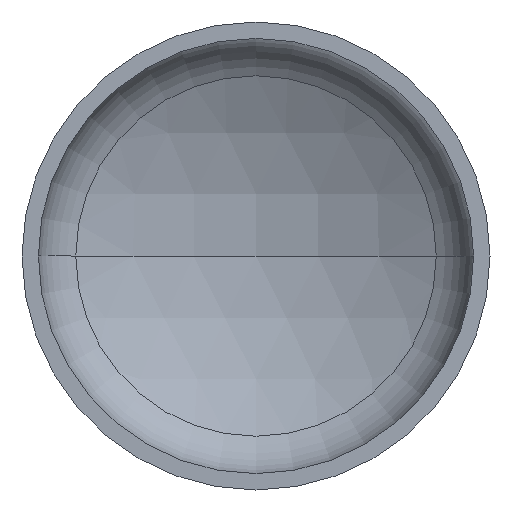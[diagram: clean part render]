
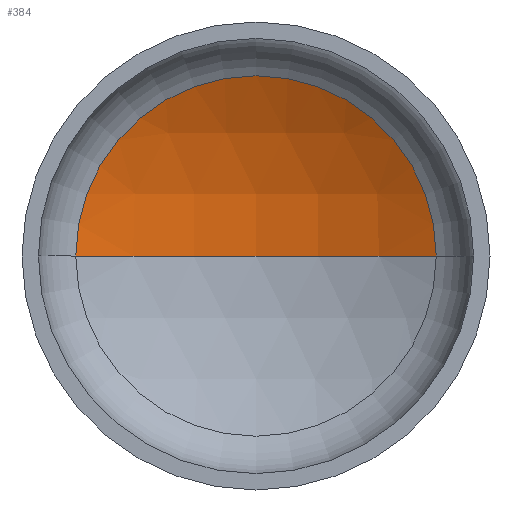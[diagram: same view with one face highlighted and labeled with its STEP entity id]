
A CAD part, front view. The second image highlights one B-rep face of the part: STEP entity #384.
In plain terms, the highlighted spherical face has radius 960 mm.
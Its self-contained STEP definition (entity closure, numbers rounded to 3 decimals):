
#1 = DIRECTION ( 'NONE',  ( 0., -1., 0. ) ) ;
#18 = ORIENTED_EDGE ( 'NONE', *, *, #138, .T. ) ;
#19 = AXIS2_PLACEMENT_3D ( 'NONE', #247, #339, #117 ) ;
#30 = ORIENTED_EDGE ( 'NONE', *, *, #163, .T. ) ;
#43 = AXIS2_PLACEMENT_3D ( 'NONE', #341, #175, #196 ) ;
#48 = AXIS2_PLACEMENT_3D ( 'NONE', #93, #1, #161 ) ;
#66 = CARTESIAN_POINT ( 'NONE',  ( -462.039, 292.164, 0. ) ) ;
#85 = ORIENTED_EDGE ( 'NONE', *, *, #357, .F. ) ;
#93 = CARTESIAN_POINT ( 'NONE',  ( 0., 292.164, 0. ) ) ;
#115 = VERTEX_POINT ( 'NONE', #191 ) ;
#117 = DIRECTION ( 'NONE',  ( 1., 0., 0. ) ) ;
#132 = VERTEX_POINT ( 'NONE', #220 ) ;
#138 = EDGE_CURVE ( 'NONE', #132, #277, #311, .T. ) ;
#139 = FACE_OUTER_BOUND ( 'NONE', #158, .T. ) ;
#150 = CIRCLE ( 'NONE', #19, 960. ) ;
#158 = EDGE_LOOP ( 'NONE', ( #85, #30, #18 ) ) ;
#161 = DIRECTION ( 'NONE',  ( 1., 0., 0. ) ) ;
#163 = EDGE_CURVE ( 'NONE', #115, #132, #246, .T. ) ;
#175 = DIRECTION ( 'NONE',  ( 0., 0., -1. ) ) ;
#191 = CARTESIAN_POINT ( 'NONE',  ( 0., 410.665, 0. ) ) ;
#196 = DIRECTION ( 'NONE',  ( -1., 0., 0. ) ) ;
#220 = CARTESIAN_POINT ( 'NONE',  ( 462.039, 292.164, 0. ) ) ;
#246 = CIRCLE ( 'NONE', #43, 960. ) ;
#247 = CARTESIAN_POINT ( 'NONE',  ( 0., -549.335, 0. ) ) ;
#259 = DIRECTION ( 'NONE',  ( 0., 0., -1. ) ) ;
#265 = SPHERICAL_SURFACE ( 'NONE', #407, 960. ) ;
#277 = VERTEX_POINT ( 'NONE', #66 ) ;
#311 = CIRCLE ( 'NONE', #48, 462.039 ) ;
#320 = DIRECTION ( 'NONE',  ( -1., 0., 0. ) ) ;
#339 = DIRECTION ( 'NONE',  ( 0., 0., 1. ) ) ;
#341 = CARTESIAN_POINT ( 'NONE',  ( 0., -549.335, 0. ) ) ;
#348 = CARTESIAN_POINT ( 'NONE',  ( 0., -549.335, 0. ) ) ;
#357 = EDGE_CURVE ( 'NONE', #115, #277, #150, .T. ) ;
#384 = ADVANCED_FACE ( 'NONE', ( #139 ), #265, .F. ) ;
#407 = AXIS2_PLACEMENT_3D ( 'NONE', #348, #259, #320 ) ;
